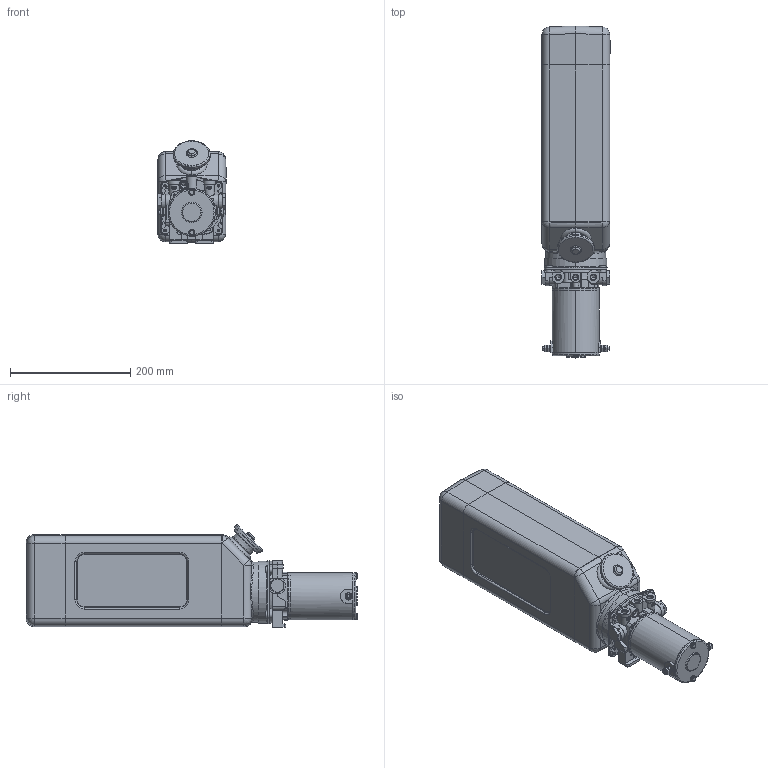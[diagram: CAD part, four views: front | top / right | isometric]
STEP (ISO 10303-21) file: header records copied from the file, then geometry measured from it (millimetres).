
FILE_DESCRIPTION((''),'2;1');
FILE_NAME('165-AY-R_ASM','2011-11-14T',('dctmp01'),('OILDYNE'),'PRO/ENGINEER BY PARAMETRIC TECHNOLOGY CORPORATION, 2005380','PRO/ENGINEER BY PARAMETRIC TECHNOLOGY CORPORATION, 2005380','');
FILE_SCHEMA(('CONFIG_CONTROL_DESIGN'));
Length unit declared in the file: inch
Products named in the file (1): 165-AY-R_ASM
Bounding box: 113.79 x 551.31 x 170.13 mm (x, y, z)
Surface area: 616070.9 mm2 (no closed solid volume)
Topology: 0 solids, 34 shells, 1716 faces, 4279 edges, 2690 vertices
Faces by surface type: plane 673, cylinder 557, cone 266, torus 169, bspline 31, sphere 20
Entity records: 54252 total; most frequent: CARTESIAN_POINT 13136, DIRECTION 8729, ORIENTED_EDGE 8526, EDGE_CURVE 4267, AXIS2_PLACEMENT_3D 3370, VERTEX_POINT 2690, VECTOR 1989, LINE 1989
